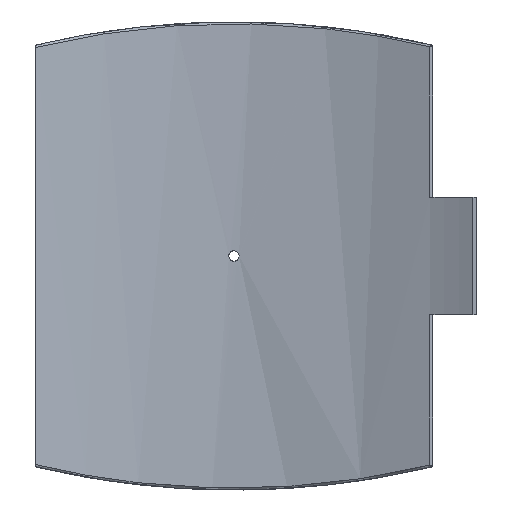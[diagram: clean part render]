
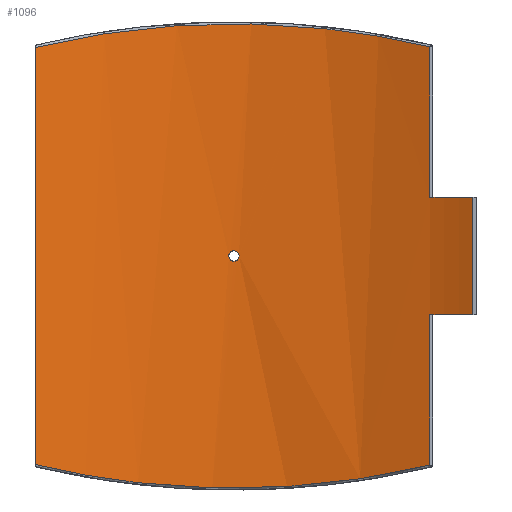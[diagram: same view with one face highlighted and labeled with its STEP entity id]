
A CAD part, front view. The second image highlights one B-rep face of the part: STEP entity #1096.
In plain terms, the highlighted cylindrical face has radius 500 mm (diameter 1000 mm), a partial arc.
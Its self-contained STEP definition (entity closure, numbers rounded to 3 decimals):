
#55=FACE_BOUND('',#359,.T.);
#109=B_SPLINE_CURVE_WITH_KNOTS('',3,(#2235,#2236,#2237,#2238,#2239,#2240,
#2241,#2242,#2243),.UNSPECIFIED.,.F.,.F.,(4,1,1,1,1,1,4),(-46.467,
-34.691,-28.803,-22.915,-17.027,
-11.139,-5.251),.UNSPECIFIED.);
#110=B_SPLINE_CURVE_WITH_KNOTS('',3,(#2252,#2253,#2254,#2255,#2256,#2257,
#2258,#2259),.UNSPECIFIED.,.F.,.F.,(4,1,1,1,1,4),(-42.344,-36.456,
-24.68,-21.736,-12.904,-1.128),
 .UNSPECIFIED.);
#111=B_SPLINE_CURVE_WITH_KNOTS('',3,(#2262,#2263,#2264,#2265,#2266,#2267,
#2268,#2269,#2270,#2271),.UNSPECIFIED.,.F.,.F.,(4,2,2,2,4),(0.,0.196,
0.392,0.588,0.784),.UNSPECIFIED.);
#112=B_SPLINE_CURVE_WITH_KNOTS('',3,(#2272,#2273,#2274,#2275,#2276,#2277,
#2278,#2279,#2280,#2281,#2282,#2283,#2284,#2285,#2286,#2287,#2288,#2289,
#2290,#2291,#2292,#2293,#2294,#2295,#2296,#2297),.UNSPECIFIED.,.F.,.F.,
(4,2,2,2,2,2,2,2,2,2,2,2,4),(0.784,0.979,1.175,
1.371,1.567,1.763,1.959,2.155,
2.351,2.546,2.742,2.938,3.134),
 .UNSPECIFIED.);
#133=LINE('',#1644,#185);
#144=LINE('',#1931,#196);
#151=LINE('',#2248,#203);
#152=LINE('',#2251,#204);
#185=VECTOR('',#1314,10.);
#196=VECTOR('',#1353,10.);
#203=VECTOR('',#1390,10.);
#204=VECTOR('',#1393,10.);
#246=CYLINDRICAL_SURFACE('',#1194,500.);
#291=FACE_OUTER_BOUND('',#358,.T.);
#358=EDGE_LOOP('',(#851,#852,#853,#854,#855,#856,#857,#858));
#359=EDGE_LOOP('',(#859,#860));
#454=CIRCLE('',#1195,500.);
#455=CIRCLE('',#1196,500.);
#517=VERTEX_POINT('',#1635);
#520=VERTEX_POINT('',#1642);
#540=VERTEX_POINT('',#1924);
#543=VERTEX_POINT('',#1929);
#556=VERTEX_POINT('',#2221);
#557=VERTEX_POINT('',#2245);
#558=VERTEX_POINT('',#2247);
#559=VERTEX_POINT('',#2250);
#560=VERTEX_POINT('',#2260);
#561=VERTEX_POINT('',#2261);
#622=EDGE_CURVE('',#520,#517,#133,.T.);
#652=EDGE_CURVE('',#543,#540,#144,.T.);
#675=EDGE_CURVE('',#556,#543,#109,.T.);
#676=EDGE_CURVE('',#557,#520,#454,.T.);
#677=EDGE_CURVE('',#557,#558,#151,.T.);
#678=EDGE_CURVE('',#540,#558,#455,.T.);
#679=EDGE_CURVE('',#559,#556,#152,.T.);
#680=EDGE_CURVE('',#517,#559,#110,.T.);
#681=EDGE_CURVE('',#560,#561,#111,.T.);
#682=EDGE_CURVE('',#561,#560,#112,.T.);
#851=ORIENTED_EDGE('',*,*,#676,.F.);
#852=ORIENTED_EDGE('',*,*,#677,.T.);
#853=ORIENTED_EDGE('',*,*,#678,.F.);
#854=ORIENTED_EDGE('',*,*,#652,.F.);
#855=ORIENTED_EDGE('',*,*,#675,.F.);
#856=ORIENTED_EDGE('',*,*,#679,.F.);
#857=ORIENTED_EDGE('',*,*,#680,.F.);
#858=ORIENTED_EDGE('',*,*,#622,.F.);
#859=ORIENTED_EDGE('',*,*,#681,.T.);
#860=ORIENTED_EDGE('',*,*,#682,.T.);
#1096=ADVANCED_FACE('',(#291,#55),#246,.F.);
#1194=AXIS2_PLACEMENT_3D('',#2244,#1386,#1387);
#1195=AXIS2_PLACEMENT_3D('',#2246,#1388,#1389);
#1196=AXIS2_PLACEMENT_3D('',#2249,#1391,#1392);
#1314=DIRECTION('',(0.,0.,-1.));
#1353=DIRECTION('',(0.,0.,-1.));
#1386=DIRECTION('center_axis',(0.,0.,1.));
#1387=DIRECTION('ref_axis',(-1.,0.,0.));
#1388=DIRECTION('center_axis',(0.,0.,1.));
#1389=DIRECTION('ref_axis',(-0.48,-0.877,0.));
#1390=DIRECTION('',(0.,0.,1.));
#1391=DIRECTION('center_axis',(0.,0.,-1.));
#1392=DIRECTION('ref_axis',(-0.48,-0.877,0.));
#1393=DIRECTION('',(0.,0.,1.));
#1635=CARTESIAN_POINT('',(196.564,459.742,-209.92));
#1642=CARTESIAN_POINT('',(196.564,459.742,-58.75));
#1644=CARTESIAN_POINT('',(196.564,459.742,0.));
#1924=CARTESIAN_POINT('',(196.564,459.742,58.75));
#1929=CARTESIAN_POINT('',(196.564,459.742,209.92));
#1931=CARTESIAN_POINT('',(196.564,459.742,0.));
#2221=CARTESIAN_POINT('',(-199.35,458.541,209.252));
#2235=CARTESIAN_POINT('Ctrl Pts',(-199.35,458.541,209.252));
#2236=CARTESIAN_POINT('Ctrl Pts',(-164.342,473.761,217.712));
#2237=CARTESIAN_POINT('Ctrl Pts',(-108.587,490.799,227.592));
#2238=CARTESIAN_POINT('Ctrl Pts',(-30.939,500.19,233.109));
#2239=CARTESIAN_POINT('Ctrl Pts',(27.831,500.377,233.223));
#2240=CARTESIAN_POINT('Ctrl Pts',(86.11,493.684,229.281));
#2241=CARTESIAN_POINT('Ctrl Pts',(142.825,480.335,221.528));
#2242=CARTESIAN_POINT('Ctrl Pts',(179.,467.251,214.102));
#2243=CARTESIAN_POINT('Ctrl Pts',(196.564,459.742,209.92));
#2244=CARTESIAN_POINT('Origin',(0.,0.,0.));
#2245=CARTESIAN_POINT('',(239.848,438.718,-58.75));
#2246=CARTESIAN_POINT('Origin',(0.,0.,
-58.75));
#2247=CARTESIAN_POINT('',(239.848,438.718,58.75));
#2248=CARTESIAN_POINT('',(239.848,438.718,0.));
#2249=CARTESIAN_POINT('Origin',(0.,0.,
58.75));
#2250=CARTESIAN_POINT('',(-199.35,458.541,-209.252));
#2251=CARTESIAN_POINT('',(-199.35,458.541,0.));
#2252=CARTESIAN_POINT('Ctrl Pts',(196.564,459.742,-209.92));
#2253=CARTESIAN_POINT('Ctrl Pts',(179.,467.251,-214.102));
#2254=CARTESIAN_POINT('Ctrl Pts',(124.755,486.894,-225.26));
#2255=CARTESIAN_POINT('Ctrl Pts',(57.103,498.755,-232.272));
#2256=CARTESIAN_POINT('Ctrl Pts',(-21.105,500.797,-233.468));
#2257=CARTESIAN_POINT('Ctrl Pts',(-99.288,493.646,-229.247));
#2258=CARTESIAN_POINT('Ctrl Pts',(-164.342,473.761,-217.712));
#2259=CARTESIAN_POINT('Ctrl Pts',(-199.35,458.541,-209.252));
#2260=CARTESIAN_POINT('',(5.2,499.973,0.));
#2261=CARTESIAN_POINT('',(0.,500.,-5.2));
#2262=CARTESIAN_POINT('Ctrl Pts',(5.2,499.973,0.));
#2263=CARTESIAN_POINT('Ctrl Pts',(5.2,499.973,-0.653));
#2264=CARTESIAN_POINT('Ctrl Pts',(5.07,499.974,-1.349));
#2265=CARTESIAN_POINT('Ctrl Pts',(4.539,499.979,-2.631));
#2266=CARTESIAN_POINT('Ctrl Pts',(4.139,499.983,-3.215));
#2267=CARTESIAN_POINT('Ctrl Pts',(3.215,499.99,-4.139));
#2268=CARTESIAN_POINT('Ctrl Pts',(2.631,499.993,-4.539));
#2269=CARTESIAN_POINT('Ctrl Pts',(1.349,499.999,-5.07));
#2270=CARTESIAN_POINT('Ctrl Pts',(0.653,500.,-5.2));
#2271=CARTESIAN_POINT('Ctrl Pts',(0.,500.,-5.2));
#2272=CARTESIAN_POINT('Ctrl Pts',(0.,500.,-5.2));
#2273=CARTESIAN_POINT('Ctrl Pts',(-0.653,500.,-5.2));
#2274=CARTESIAN_POINT('Ctrl Pts',(-1.349,499.999,-5.07));
#2275=CARTESIAN_POINT('Ctrl Pts',(-2.631,499.993,-4.539));
#2276=CARTESIAN_POINT('Ctrl Pts',(-3.215,499.99,-4.139));
#2277=CARTESIAN_POINT('Ctrl Pts',(-4.139,499.983,-3.215));
#2278=CARTESIAN_POINT('Ctrl Pts',(-4.539,499.979,-2.631));
#2279=CARTESIAN_POINT('Ctrl Pts',(-5.07,499.974,-1.349));
#2280=CARTESIAN_POINT('Ctrl Pts',(-5.2,499.973,-0.653));
#2281=CARTESIAN_POINT('Ctrl Pts',(-5.2,499.973,0.653));
#2282=CARTESIAN_POINT('Ctrl Pts',(-5.07,499.974,1.349));
#2283=CARTESIAN_POINT('Ctrl Pts',(-4.539,499.979,2.631));
#2284=CARTESIAN_POINT('Ctrl Pts',(-4.139,499.983,3.215));
#2285=CARTESIAN_POINT('Ctrl Pts',(-3.215,499.99,4.139));
#2286=CARTESIAN_POINT('Ctrl Pts',(-2.631,499.993,4.539));
#2287=CARTESIAN_POINT('Ctrl Pts',(-1.349,499.999,5.07));
#2288=CARTESIAN_POINT('Ctrl Pts',(-0.653,500.,5.2));
#2289=CARTESIAN_POINT('Ctrl Pts',(0.653,500.,5.2));
#2290=CARTESIAN_POINT('Ctrl Pts',(1.349,499.999,5.07));
#2291=CARTESIAN_POINT('Ctrl Pts',(2.631,499.993,4.539));
#2292=CARTESIAN_POINT('Ctrl Pts',(3.215,499.99,4.139));
#2293=CARTESIAN_POINT('Ctrl Pts',(4.139,499.983,3.215));
#2294=CARTESIAN_POINT('Ctrl Pts',(4.539,499.979,2.631));
#2295=CARTESIAN_POINT('Ctrl Pts',(5.07,499.974,1.349));
#2296=CARTESIAN_POINT('Ctrl Pts',(5.2,499.973,0.653));
#2297=CARTESIAN_POINT('Ctrl Pts',(5.2,499.973,0.));
